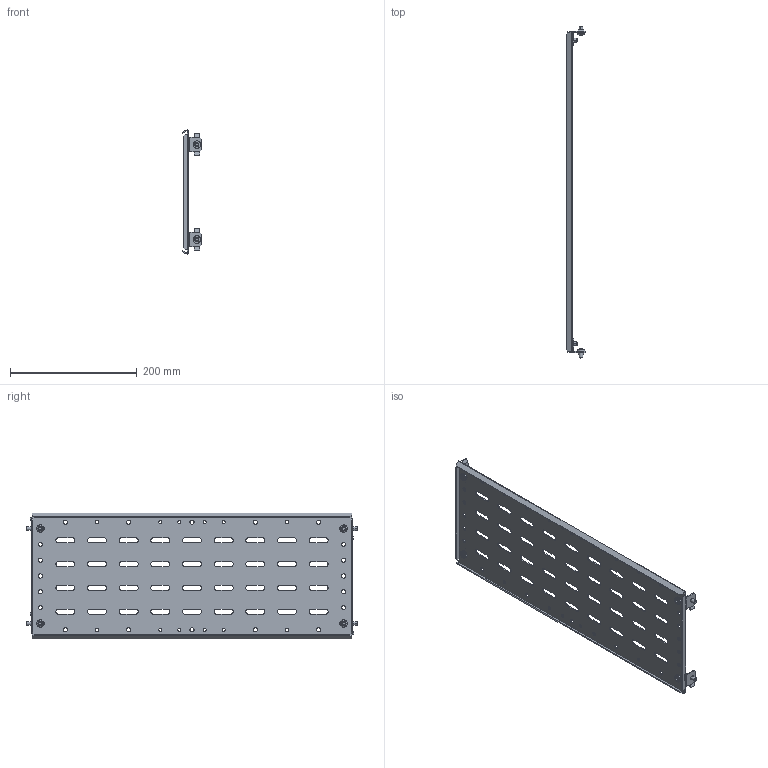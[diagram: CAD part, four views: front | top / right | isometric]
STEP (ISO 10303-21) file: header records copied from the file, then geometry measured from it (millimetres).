
FILE_DESCRIPTION (( 'STEP AP214' ), '1' );
FILE_NAME ('FO-00-SWF-020-060 Ïåðåãîðîäêà ñåêöèîíèðîâàíèÿ çàäíÿÿ 200õ600 ìì.STEP', '2025-08-12T08:45:15', ( '' ), ( '' ), 'SwSTEP 2.0', 'SolidWorks 2023', '' );
FILE_SCHEMA (( 'AUTOMOTIVE_DESIGN' ));
Length unit declared in the file: millimetre
Products named in the file (1): FO-00-SWF-020-060 Перегородка секционирования задняя 200х600 мм
Bounding box: 30.52 x 524 x 197.66 mm (x, y, z)
Volume: 164586.9 mm3; surface area: 218189.4 mm2
Topology: 1 solids, 5 shells, 636 faces, 1750 edges, 1144 vertices
Faces by surface type: cylinder 348, plane 232, torus 24, cone 24, sphere 8
Entity records: 20837 total; most frequent: CARTESIAN_POINT 3799, DIRECTION 3668, ORIENTED_EDGE 3500, EDGE_CURVE 1750, AXIS2_PLACEMENT_3D 1349, VERTEX_POINT 1144, LINE 970, VECTOR 970
